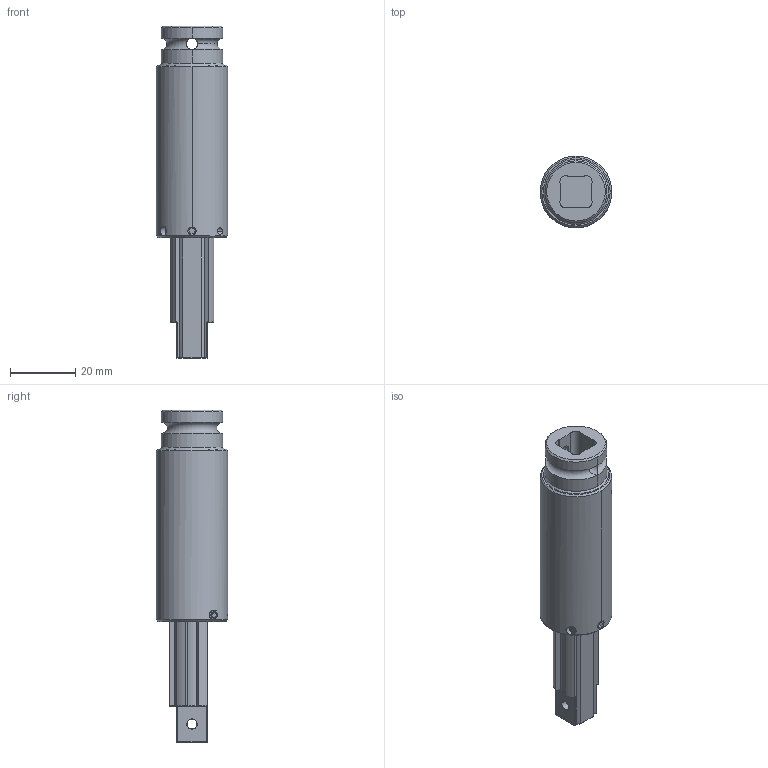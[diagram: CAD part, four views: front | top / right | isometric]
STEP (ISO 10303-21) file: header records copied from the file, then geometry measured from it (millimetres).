
FILE_DESCRIPTION (( 'STEP AP214' ), '1' );
FILE_NAME ('Compensatore Kolver 3-8_3-8 Cod_800321.STEP', '2016-04-27T06:35:26', ( '' ), ( '' ), 'SwSTEP 2.0', 'SolidWorks 2015', '' );
FILE_SCHEMA (( 'AUTOMOTIVE_DESIGN' ));
Length unit declared in the file: millimetre
Products named in the file (1): Compensatore Kolver 3-8_3-8 Cod_800321
Bounding box: 22 x 22 x 102 mm (x, y, z)
Surface area: 9670.6 mm2 (no closed solid volume)
Topology: 0 solids, 50 shells, 168 faces, 546 edges, 408 vertices
Faces by surface type: cylinder 77, plane 43, torus 24, cone 10, sphere 8, bspline 6
Entity records: 8806 total; most frequent: CARTESIAN_POINT 2283, DIRECTION 1035, ORIENTED_EDGE 806, EDGE_CURVE 538, VERTEX_POINT 406, AXIS2_PLACEMENT_3D 402, CIRCLE 239, VECTOR 231
